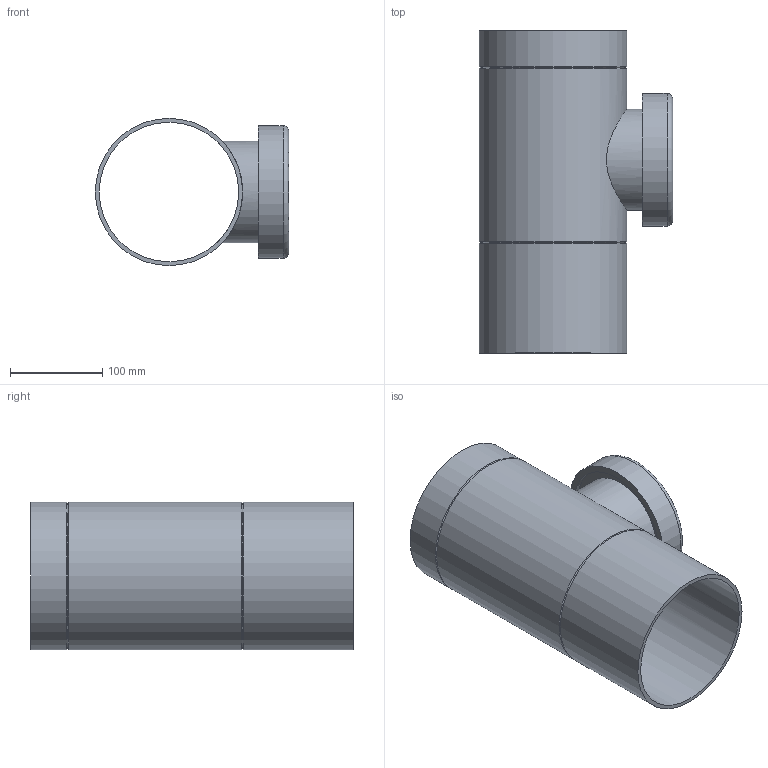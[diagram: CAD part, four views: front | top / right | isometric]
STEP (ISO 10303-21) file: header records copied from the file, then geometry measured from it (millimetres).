
FILE_DESCRIPTION(/* description */ (''),/* implementation_level */ '2;1');
FILE_NAME(/* name */ 'Z:\Geberit\Export\NewStep\369451.stp',/* time_stamp */ '2014-04-02T08:02:32+02:00',/* author */ ('Marco'),/* organization */ (''),/* preprocessor_version */ 'ST-DEVELOPER v15.2',/* originating_system */ 'Autodesk Inventor 2014',/* authorisation */ '');
FILE_SCHEMA (('AUTOMOTIVE_DESIGN { 1 0 10303 214 3 1 1 }'));
Length unit declared in the file: millimetre
Products named in the file (3): 853722; 853404; 369451
Bounding box: 210 x 350 x 160 mm (x, y, z)
Volume: 1076299.3 mm3; surface area: 447200.6 mm2
Topology: 2 solids, 2 shells, 58 faces, 123 edges, 81 vertices
Faces by surface type: cylinder 29, plane 24, cone 4, torus 1
Full cylindrical faces by diameter (mm): 8 x2, 78 x1, 101.4 x1, 110 x1, 115 x1, 130 x2, 144 x1, 151.4 x1, 160 x3
Entity records: 1708 total; most frequent: CARTESIAN_POINT 371, DIRECTION 284, ORIENTED_EDGE 202, AXIS2_PLACEMENT_3D 122, EDGE_CURVE 101, EDGE_LOOP 92, VERTEX_POINT 77, STYLED_ITEM 60
